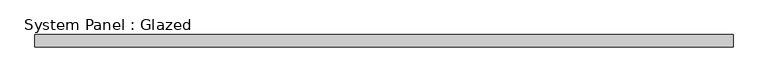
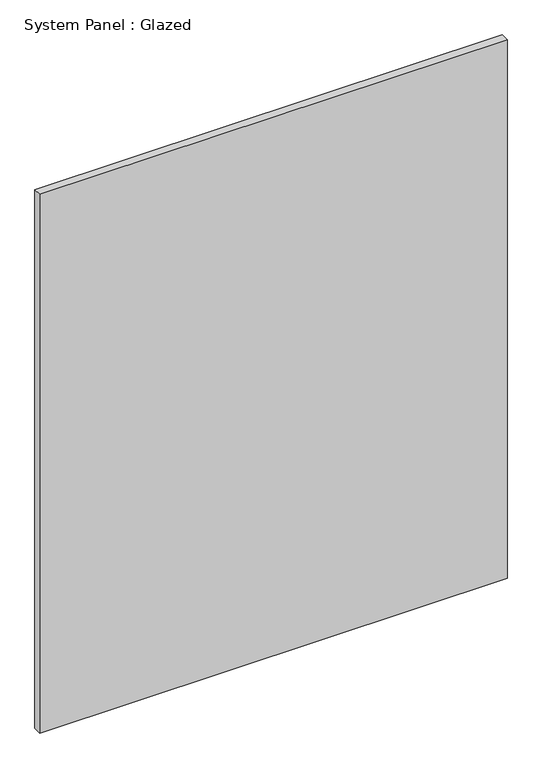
"""IFC4 building model written with IfcOpenShell, lengths in millimetres: plate geometry, System Panel : Glazed."""

from ifc_helpers import new_model, si_unit, origin, origin_with_axes, place, context, project, spatial, polyline, outline, extrude, source, transform, mapped, element, save


def system_panel_glazed_2d2b32e8(model_context):
    return source(origin(), model_context, "Body", "SweptSolid", [
        extrude(outline(polyline([(732.155, -12.7), (-732.155, -12.7), (-732.155, 12.7), (732.155, 12.7), (732.155, -12.7)])), origin_with_axes(), (0.0, 0.0, 1.0), 1784.35),
    ])


if __name__ == "__main__":
    model = new_model("IFC4")
    model_context = context("Model", 3, world=origin())
    ifc_project = project(units=[si_unit("LENGTHUNIT", "METRE", prefix="MILLI")], contexts=[model_context])
    site = spatial("IfcSite", under=ifc_project)
    building = spatial("IfcBuilding", under=site)
    placement = place(None, origin())
    system_panel_glazed_shape = system_panel_glazed_2d2b32e8(model_context)
    element("IfcPlate", 1, ObjectType="System Panel : Glazed", at=placement, inside=building, context=model_context, shape_type="MappedRepresentation", body=[
        mapped(system_panel_glazed_shape, transform((0.0, 0.0, 0.0), x_axis=(1.0, 0.0, 0.0), y_axis=(0.0, 1.0, 0.0), z_axis=(0.0, 0.0, 1.0))),
    ])
    save(model, "model.ifc")
